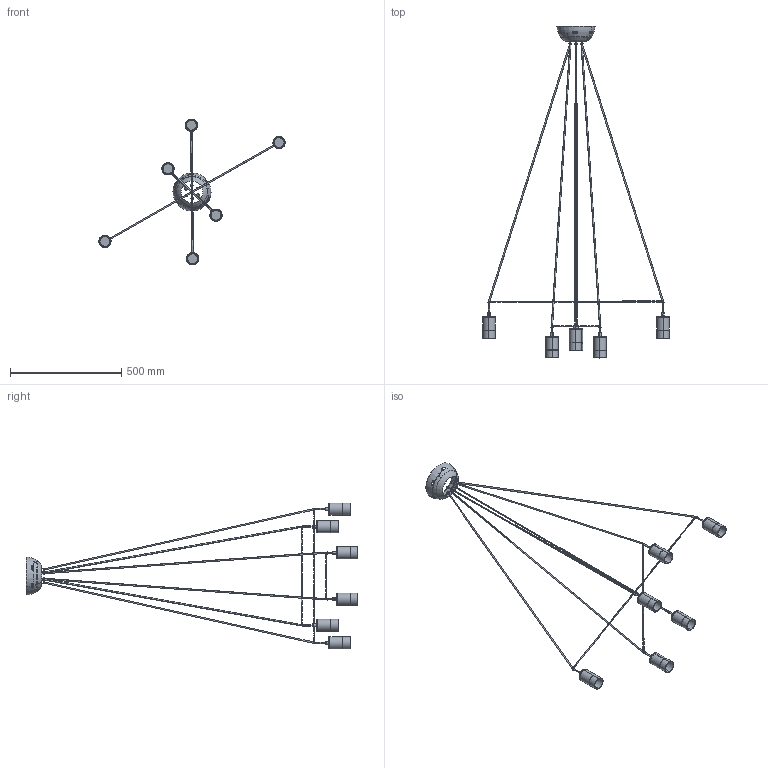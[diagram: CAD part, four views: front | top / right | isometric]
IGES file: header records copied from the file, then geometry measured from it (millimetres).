
Start section: SolidWorks IGES file using analytic representation for surfaces
Global section: file name: Z:\Modele 3D_WWW\_KOLEKCJE_WWW\IMBRIA\IMBRIA-VI-9676-9677-7956\IMBRIA-VI-9676-9677-7956.IGS; native system: SolidWorks 2021; preprocessor: SolidWorks 2021; author: gabriela.tworek; date: 210816.111710; units: millimetre
Bounding box: 838.51 x 1494.29 x 656.84 mm (x, y, z)
Surface area: 589596.9 mm2 (no closed solid volume)
Topology: 0 solids, 0 shells, 1041 faces, 17577 edges, 17577 vertices
Faces by surface type: bspline 531, revolution 510
